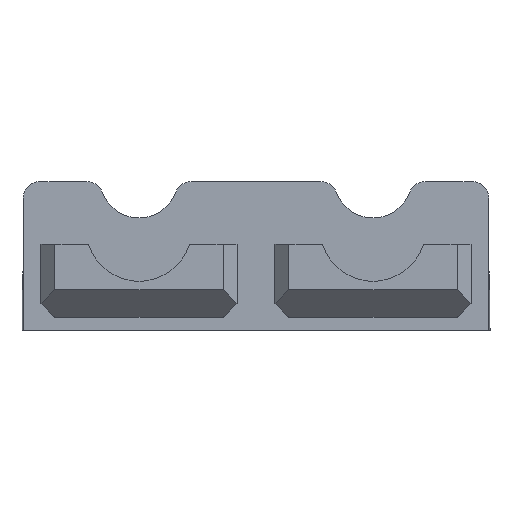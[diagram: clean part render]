
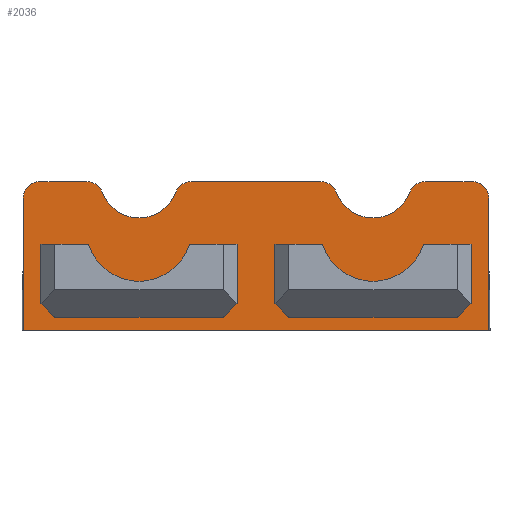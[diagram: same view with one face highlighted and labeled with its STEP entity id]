
A CAD part, left-side view. The second image highlights one B-rep face of the part: STEP entity #2036.
In plain terms, the highlighted planar face has unit normal (-1, 0, 0).
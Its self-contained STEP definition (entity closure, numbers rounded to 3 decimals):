
#39=FACE_BOUND('',#375,.T.);
#40=FACE_BOUND('',#376,.T.);
#115=PLANE('',#2253);
#240=FACE_OUTER_BOUND('',#374,.T.);
#374=EDGE_LOOP('',(#1845,#1846,#1847,#1848,#1849,#1850,#1851,#1852,#1853,
#1854,#1855,#1856,#1857,#1858));
#375=EDGE_LOOP('',(#1859,#1860,#1861,#1862,#1863,#1864));
#376=EDGE_LOOP('',(#1865,#1866,#1867,#1868,#1869,#1870));
#401=LINE('',#2985,#605);
#510=LINE('',#3276,#714);
#513=LINE('',#3282,#717);
#515=LINE('',#3288,#719);
#537=LINE('',#3333,#741);
#539=LINE('',#3339,#743);
#541=LINE('',#3343,#745);
#542=LINE('',#3345,#746);
#546=LINE('',#3361,#750);
#568=LINE('',#3406,#772);
#570=LINE('',#3412,#774);
#572=LINE('',#3416,#776);
#573=LINE('',#3418,#777);
#577=LINE('',#3433,#781);
#580=LINE('',#3438,#784);
#581=LINE('',#3443,#785);
#605=VECTOR('',#2375,10.);
#714=VECTOR('',#2700,10.);
#717=VECTOR('',#2705,10.);
#719=VECTOR('',#2709,10.);
#741=VECTOR('',#2747,10.);
#743=VECTOR('',#2755,10.);
#745=VECTOR('',#2759,10.);
#746=VECTOR('',#2762,10.);
#750=VECTOR('',#2780,10.);
#772=VECTOR('',#2818,10.);
#774=VECTOR('',#2826,10.);
#776=VECTOR('',#2830,10.);
#777=VECTOR('',#2833,10.);
#781=VECTOR('',#2851,10.);
#784=VECTOR('',#2856,10.);
#785=VECTOR('',#2863,10.);
#854=CIRCLE('',#2219,9.5);
#855=CIRCLE('',#2224,3.);
#856=CIRCLE('',#2226,7.);
#857=CIRCLE('',#2228,3.);
#859=CIRCLE('',#2239,9.5);
#860=CIRCLE('',#2244,3.);
#861=CIRCLE('',#2246,7.);
#862=CIRCLE('',#2248,3.);
#863=CIRCLE('',#2252,3.);
#864=CIRCLE('',#2254,3.);
#907=VERTEX_POINT('',#2982);
#908=VERTEX_POINT('',#2984);
#981=VERTEX_POINT('',#3272);
#982=VERTEX_POINT('',#3274);
#983=VERTEX_POINT('',#3278);
#984=VERTEX_POINT('',#3280);
#986=VERTEX_POINT('',#3285);
#987=VERTEX_POINT('',#3287);
#1001=VERTEX_POINT('',#3329);
#1002=VERTEX_POINT('',#3331);
#1003=VERTEX_POINT('',#3337);
#1004=VERTEX_POINT('',#3341);
#1005=VERTEX_POINT('',#3347);
#1006=VERTEX_POINT('',#3351);
#1008=VERTEX_POINT('',#3358);
#1009=VERTEX_POINT('',#3360);
#1023=VERTEX_POINT('',#3402);
#1024=VERTEX_POINT('',#3404);
#1025=VERTEX_POINT('',#3410);
#1026=VERTEX_POINT('',#3414);
#1027=VERTEX_POINT('',#3420);
#1028=VERTEX_POINT('',#3424);
#1029=VERTEX_POINT('',#3428);
#1030=VERTEX_POINT('',#3432);
#1031=VERTEX_POINT('',#3436);
#1032=VERTEX_POINT('',#3442);
#1083=EDGE_CURVE('',#907,#908,#401,.T.);
#1230=EDGE_CURVE('',#981,#982,#510,.T.);
#1233=EDGE_CURVE('',#983,#984,#513,.T.);
#1235=EDGE_CURVE('',#987,#986,#515,.T.);
#1258=EDGE_CURVE('',#1001,#1002,#537,.T.);
#1259=EDGE_CURVE('',#986,#1001,#854,.T.);
#1261=EDGE_CURVE('',#1002,#1003,#539,.T.);
#1263=EDGE_CURVE('',#1003,#1004,#541,.T.);
#1264=EDGE_CURVE('',#1004,#987,#542,.T.);
#1266=EDGE_CURVE('',#1005,#984,#855,.T.);
#1268=EDGE_CURVE('',#1005,#1006,#856,.T.);
#1269=EDGE_CURVE('',#981,#1006,#857,.T.);
#1271=EDGE_CURVE('',#1009,#1008,#546,.T.);
#1294=EDGE_CURVE('',#1023,#1024,#568,.T.);
#1295=EDGE_CURVE('',#1008,#1023,#859,.T.);
#1297=EDGE_CURVE('',#1024,#1025,#570,.T.);
#1299=EDGE_CURVE('',#1025,#1026,#572,.T.);
#1300=EDGE_CURVE('',#1026,#1009,#573,.T.);
#1302=EDGE_CURVE('',#1027,#982,#860,.T.);
#1304=EDGE_CURVE('',#1027,#1028,#861,.T.);
#1306=EDGE_CURVE('',#1029,#1028,#862,.T.);
#1307=EDGE_CURVE('',#1030,#908,#577,.T.);
#1310=EDGE_CURVE('',#907,#1031,#580,.T.);
#1311=EDGE_CURVE('',#983,#1031,#863,.T.);
#1312=EDGE_CURVE('',#1029,#1032,#581,.T.);
#1313=EDGE_CURVE('',#1030,#1032,#864,.T.);
#1845=ORIENTED_EDGE('',*,*,#1310,.T.);
#1846=ORIENTED_EDGE('',*,*,#1311,.F.);
#1847=ORIENTED_EDGE('',*,*,#1233,.T.);
#1848=ORIENTED_EDGE('',*,*,#1266,.F.);
#1849=ORIENTED_EDGE('',*,*,#1268,.T.);
#1850=ORIENTED_EDGE('',*,*,#1269,.F.);
#1851=ORIENTED_EDGE('',*,*,#1230,.T.);
#1852=ORIENTED_EDGE('',*,*,#1302,.F.);
#1853=ORIENTED_EDGE('',*,*,#1304,.T.);
#1854=ORIENTED_EDGE('',*,*,#1306,.F.);
#1855=ORIENTED_EDGE('',*,*,#1312,.T.);
#1856=ORIENTED_EDGE('',*,*,#1313,.F.);
#1857=ORIENTED_EDGE('',*,*,#1307,.T.);
#1858=ORIENTED_EDGE('',*,*,#1083,.F.);
#1859=ORIENTED_EDGE('',*,*,#1264,.T.);
#1860=ORIENTED_EDGE('',*,*,#1235,.T.);
#1861=ORIENTED_EDGE('',*,*,#1259,.T.);
#1862=ORIENTED_EDGE('',*,*,#1258,.T.);
#1863=ORIENTED_EDGE('',*,*,#1261,.T.);
#1864=ORIENTED_EDGE('',*,*,#1263,.T.);
#1865=ORIENTED_EDGE('',*,*,#1297,.T.);
#1866=ORIENTED_EDGE('',*,*,#1299,.T.);
#1867=ORIENTED_EDGE('',*,*,#1300,.T.);
#1868=ORIENTED_EDGE('',*,*,#1271,.T.);
#1869=ORIENTED_EDGE('',*,*,#1295,.T.);
#1870=ORIENTED_EDGE('',*,*,#1294,.T.);
#2036=ADVANCED_FACE('',(#240,#39,#40),#115,.F.);
#2219=AXIS2_PLACEMENT_3D('',#3335,#2750,#2751);
#2224=AXIS2_PLACEMENT_3D('',#3349,#2766,#2767);
#2226=AXIS2_PLACEMENT_3D('',#3353,#2771,#2772);
#2228=AXIS2_PLACEMENT_3D('',#3355,#2775,#2776);
#2239=AXIS2_PLACEMENT_3D('',#3408,#2821,#2822);
#2244=AXIS2_PLACEMENT_3D('',#3422,#2837,#2838);
#2246=AXIS2_PLACEMENT_3D('',#3426,#2842,#2843);
#2248=AXIS2_PLACEMENT_3D('',#3430,#2847,#2848);
#2252=AXIS2_PLACEMENT_3D('',#3440,#2859,#2860);
#2253=AXIS2_PLACEMENT_3D('',#3441,#2861,#2862);
#2254=AXIS2_PLACEMENT_3D('',#3444,#2864,#2865);
#2375=DIRECTION('',(0.,1.,0.));
#2700=DIRECTION('',(0.,1.,0.));
#2705=DIRECTION('',(0.,1.,0.));
#2709=DIRECTION('',(0.,-1.,0.));
#2747=DIRECTION('',(0.,-1.,0.));
#2750=DIRECTION('center_axis',(-1.,0.,0.));
#2751=DIRECTION('ref_axis',(0.,1.,0.));
#2755=DIRECTION('',(0.,0.,-1.));
#2759=DIRECTION('',(0.,1.,0.));
#2762=DIRECTION('',(0.,0.,1.));
#2766=DIRECTION('center_axis',(1.,0.,0.));
#2767=DIRECTION('ref_axis',(0.,0.572,0.82));
#2771=DIRECTION('center_axis',(1.,0.,0.));
#2772=DIRECTION('ref_axis',(0.,1.,0.));
#2775=DIRECTION('center_axis',(1.,0.,0.));
#2776=DIRECTION('ref_axis',(0.,-0.572,0.82));
#2780=DIRECTION('',(0.,-1.,0.));
#2818=DIRECTION('',(0.,-1.,0.));
#2821=DIRECTION('center_axis',(-1.,0.,0.));
#2822=DIRECTION('ref_axis',(0.,1.,0.));
#2826=DIRECTION('',(0.,0.,-1.));
#2830=DIRECTION('',(0.,1.,0.));
#2833=DIRECTION('',(0.,0.,1.));
#2837=DIRECTION('center_axis',(1.,0.,0.));
#2838=DIRECTION('ref_axis',(0.,0.572,0.82));
#2842=DIRECTION('center_axis',(1.,0.,0.));
#2843=DIRECTION('ref_axis',(0.,1.,0.));
#2847=DIRECTION('center_axis',(1.,0.,0.));
#2848=DIRECTION('ref_axis',(0.,-0.572,0.82));
#2851=DIRECTION('',(0.,0.,-1.));
#2856=DIRECTION('',(0.,0.,1.));
#2859=DIRECTION('center_axis',(1.,0.,0.));
#2860=DIRECTION('ref_axis',(0.,-0.707,0.707));
#2861=DIRECTION('center_axis',(1.,0.,0.));
#2862=DIRECTION('ref_axis',(0.,1.,0.));
#2863=DIRECTION('',(0.,1.,0.));
#2864=DIRECTION('center_axis',(1.,0.,0.));
#2865=DIRECTION('ref_axis',(0.,0.707,0.707));
#2982=CARTESIAN_POINT('',(96.15,-20.8,-174.478));
#2984=CARTESIAN_POINT('',(96.15,62.8,-174.478));
#2985=CARTESIAN_POINT('',(96.15,-20.8,-174.478));
#3272=CARTESIAN_POINT('',(96.15,9.382,-147.76));
#3274=CARTESIAN_POINT('',(96.15,32.618,-147.76));
#3276=CARTESIAN_POINT('',(96.15,21.2,-147.76));
#3278=CARTESIAN_POINT('',(96.15,-17.8,-147.76));
#3280=CARTESIAN_POINT('',(96.15,-9.382,-147.76));
#3282=CARTESIAN_POINT('',(96.15,-20.8,-147.76));
#3285=CARTESIAN_POINT('',(96.15,9.062,-159.));
#3287=CARTESIAN_POINT('',(96.15,15.1,-159.));
#3288=CARTESIAN_POINT('',(96.15,0.,-159.));
#3329=CARTESIAN_POINT('',(96.15,-9.062,-159.));
#3331=CARTESIAN_POINT('',(96.15,-15.1,-159.));
#3333=CARTESIAN_POINT('',(96.15,0.,-159.));
#3335=CARTESIAN_POINT('Origin',(96.15,0.,-156.15));
#3337=CARTESIAN_POINT('',(96.15,-15.1,-172.15));
#3339=CARTESIAN_POINT('',(96.15,-15.1,-160.));
#3341=CARTESIAN_POINT('',(96.15,15.1,-172.15));
#3343=CARTESIAN_POINT('',(96.15,0.,-172.15));
#3345=CARTESIAN_POINT('',(96.15,15.1,-166.046));
#3347=CARTESIAN_POINT('',(96.15,-6.567,-149.722));
#3349=CARTESIAN_POINT('Origin',(96.15,-9.382,-150.76));
#3351=CARTESIAN_POINT('',(96.15,6.567,-149.722));
#3353=CARTESIAN_POINT('Origin',(96.15,0.,-147.298));
#3355=CARTESIAN_POINT('Origin',(96.15,9.382,-150.76));
#3358=CARTESIAN_POINT('',(96.15,51.062,-159.));
#3360=CARTESIAN_POINT('',(96.15,57.1,-159.));
#3361=CARTESIAN_POINT('',(96.15,42.,-159.));
#3402=CARTESIAN_POINT('',(96.15,32.938,-159.));
#3404=CARTESIAN_POINT('',(96.15,26.9,-159.));
#3406=CARTESIAN_POINT('',(96.15,42.,-159.));
#3408=CARTESIAN_POINT('Origin',(96.15,42.,-156.15));
#3410=CARTESIAN_POINT('',(96.15,26.9,-172.15));
#3412=CARTESIAN_POINT('',(96.15,26.9,-160.));
#3414=CARTESIAN_POINT('',(96.15,57.1,-172.15));
#3416=CARTESIAN_POINT('',(96.15,42.,-172.15));
#3418=CARTESIAN_POINT('',(96.15,57.1,-166.046));
#3420=CARTESIAN_POINT('',(96.15,35.433,-149.722));
#3422=CARTESIAN_POINT('Origin',(96.15,32.618,-150.76));
#3424=CARTESIAN_POINT('',(96.15,48.567,-149.722));
#3426=CARTESIAN_POINT('Origin',(96.15,42.,-147.298));
#3428=CARTESIAN_POINT('',(96.15,51.382,-147.76));
#3430=CARTESIAN_POINT('Origin',(96.15,51.382,-150.76));
#3432=CARTESIAN_POINT('',(96.15,62.8,-150.76));
#3433=CARTESIAN_POINT('',(96.15,62.8,-166.033));
#3436=CARTESIAN_POINT('',(96.15,-20.8,-150.76));
#3438=CARTESIAN_POINT('',(96.15,-20.8,-153.851));
#3440=CARTESIAN_POINT('Origin',(96.15,-17.8,-150.76));
#3441=CARTESIAN_POINT('Origin',(96.15,0.,-159.942));
#3442=CARTESIAN_POINT('',(96.15,59.8,-147.76));
#3443=CARTESIAN_POINT('',(96.15,21.2,-147.76));
#3444=CARTESIAN_POINT('Origin',(96.15,59.8,-150.76));
